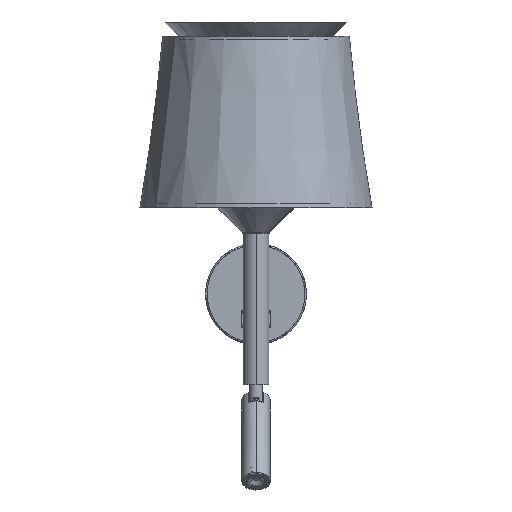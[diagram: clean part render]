
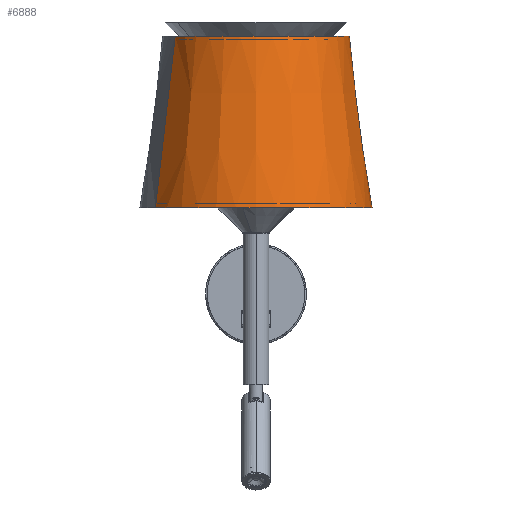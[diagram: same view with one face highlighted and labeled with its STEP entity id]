
A CAD part, top view. The second image highlights one B-rep face of the part: STEP entity #6888.
In plain terms, the highlighted conical face has half-angle 7.539 degrees and reference radius 39.992 mm.
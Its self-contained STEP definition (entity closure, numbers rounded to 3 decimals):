
#374=CONICAL_SURFACE('',#7637,39.992,0.132);
#718=CIRCLE('',#7593,115.);
#737=CIRCLE('',#7638,92.5);
#1290=FACE_OUTER_BOUND('',#1761,.T.);
#1761=EDGE_LOOP('',(#6176,#6177,#6178,#6179));
#2251=LINE('',#14608,#2724);
#2252=LINE('',#14611,#2725);
#2724=VECTOR('',#9542,1.);
#2725=VECTOR('',#9545,1.);
#3305=VERTEX_POINT('',#14240);
#3306=VERTEX_POINT('',#14241);
#3352=VERTEX_POINT('',#14607);
#3353=VERTEX_POINT('',#14609);
#4245=EDGE_CURVE('',#3306,#3305,#718,.T.);
#4327=EDGE_CURVE('',#3352,#3305,#2251,.T.);
#4328=EDGE_CURVE('',#3353,#3352,#737,.T.);
#4329=EDGE_CURVE('',#3306,#3353,#2252,.T.);
#6176=ORIENTED_EDGE('',*,*,#4245,.T.);
#6177=ORIENTED_EDGE('',*,*,#4327,.F.);
#6178=ORIENTED_EDGE('',*,*,#4328,.F.);
#6179=ORIENTED_EDGE('',*,*,#4329,.F.);
#6888=ADVANCED_FACE('',(#1290),#374,.T.);
#7593=AXIS2_PLACEMENT_3D('',#14243,#9407,#9408);
#7637=AXIS2_PLACEMENT_3D('',#14606,#9540,#9541);
#7638=AXIS2_PLACEMENT_3D('',#14610,#9543,#9544);
#9407=DIRECTION('center_axis',(0.,0.,1.));
#9408=DIRECTION('ref_axis',(-1.,-0.004,0.));
#9540=DIRECTION('center_axis',(0.,0.,
-1.));
#9541=DIRECTION('ref_axis',(1.,0.004,0.));
#9542=DIRECTION('',(-0.131,0.,-0.991));
#9543=DIRECTION('center_axis',(0.,0.,1.));
#9544=DIRECTION('ref_axis',(1.,0.004,0.));
#9545=DIRECTION('',(-0.131,0.,0.991));
#14240=CARTESIAN_POINT('',(-114.999,-0.423,0.));
#14241=CARTESIAN_POINT('',(114.999,0.423,0.));
#14243=CARTESIAN_POINT('Origin',(0.,0.,
0.));
#14606=CARTESIAN_POINT('Origin',(0.,0.,
566.724));
#14607=CARTESIAN_POINT('',(-92.499,-0.341,170.));
#14608=CARTESIAN_POINT('',(-92.499,-0.341,170.));
#14609=CARTESIAN_POINT('',(92.499,0.341,170.));
#14610=CARTESIAN_POINT('Origin',(0.,0.,
170.));
#14611=CARTESIAN_POINT('',(114.999,0.423,0.));
